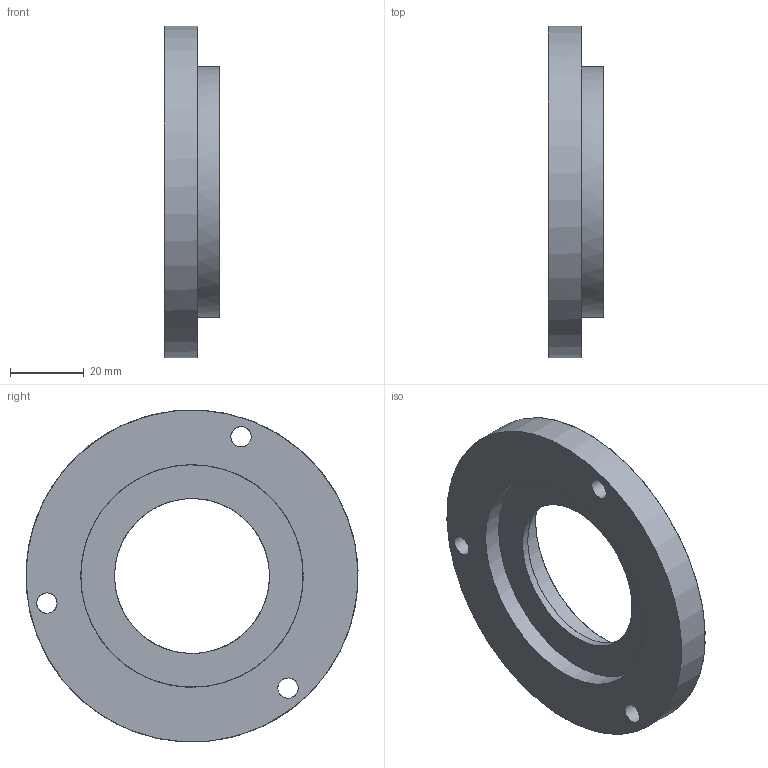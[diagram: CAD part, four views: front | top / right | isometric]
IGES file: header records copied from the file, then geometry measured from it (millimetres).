
Start section: File produced by SOLID-CONCEP (Trim Surfaces - Entity 144)
Global section: file name: 20.igs; native system: SOLID-CONCEPT V.5.xx; preprocessor: SOLID-CONCEPT-IGES-OUT v2.00; date: 100220.111459; units: millimetre
Bounding box: 15 x 89.95 x 89.9 mm (x, y, z)
Surface area: 16621 mm2 (no closed solid volume)
Topology: 0 solids, 0 shells, 13 faces, 96 edges, 80 vertices
Faces by surface type: revolution 8, bspline 5
